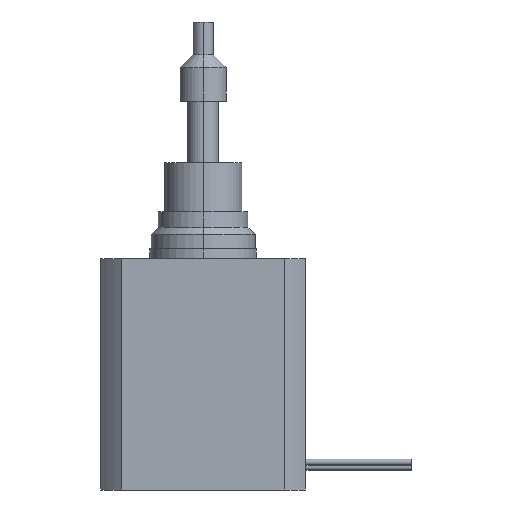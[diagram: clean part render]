
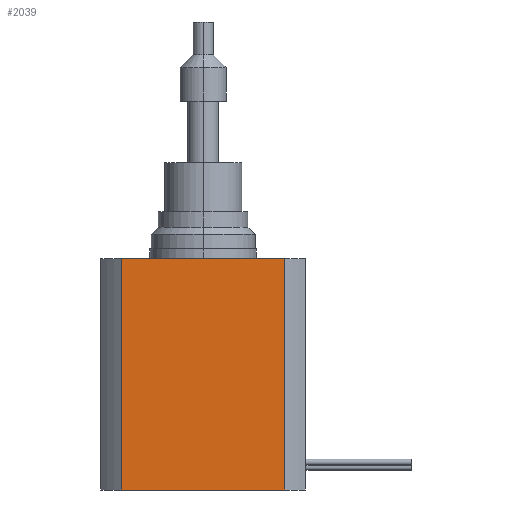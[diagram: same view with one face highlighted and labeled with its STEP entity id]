
A CAD part, left-side view. The second image highlights one B-rep face of the part: STEP entity #2039.
In plain terms, the highlighted planar face has unit normal (-1, 0, 0).
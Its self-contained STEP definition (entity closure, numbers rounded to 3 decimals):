
#75 = CARTESIAN_POINT ( 'NONE',  ( -21.1, 16.838, -47.75 ) ) ;
#152 = EDGE_CURVE ( 'NONE', #2584, #434, #2000, .T. ) ;
#195 = VECTOR ( 'NONE', #1322, 1000. ) ;
#240 = CARTESIAN_POINT ( 'NONE',  ( -21.1, -16.838, -47.75 ) ) ;
#256 = CARTESIAN_POINT ( 'NONE',  ( -21.1, -16.838, 0. ) ) ;
#270 = EDGE_CURVE ( 'NONE', #2584, #754, #437, .T. ) ;
#421 = CARTESIAN_POINT ( 'NONE',  ( -21.1, 16.838, 0. ) ) ;
#434 = VERTEX_POINT ( 'NONE', #421 ) ;
#437 = LINE ( 'NONE', #1370, #195 ) ;
#582 = EDGE_CURVE ( 'NONE', #434, #1094, #1274, .T. ) ;
#597 = VECTOR ( 'NONE', #1249, 1000. ) ;
#627 = CARTESIAN_POINT ( 'NONE',  ( -21.1, -16.838, -47.75 ) ) ;
#658 = EDGE_CURVE ( 'NONE', #754, #1094, #2222, .T. ) ;
#737 = FACE_OUTER_BOUND ( 'NONE', #2724, .T. ) ;
#754 = VERTEX_POINT ( 'NONE', #240 ) ;
#977 = CARTESIAN_POINT ( 'NONE',  ( -21.1, 21.1, -47.75 ) ) ;
#1094 = VERTEX_POINT ( 'NONE', #256 ) ;
#1192 = PLANE ( 'NONE',  #1537 ) ;
#1248 = ORIENTED_EDGE ( 'NONE', *, *, #658, .T. ) ;
#1249 = DIRECTION ( 'NONE',  ( 0., -1., 0. ) ) ;
#1274 = LINE ( 'NONE', #2882, #597 ) ;
#1322 = DIRECTION ( 'NONE',  ( 0., -1., 0. ) ) ;
#1358 = ORIENTED_EDGE ( 'NONE', *, *, #152, .F. ) ;
#1370 = CARTESIAN_POINT ( 'NONE',  ( -21.1, 21.1, -47.75 ) ) ;
#1420 = VECTOR ( 'NONE', #1556, 1000. ) ;
#1424 = DIRECTION ( 'NONE',  ( 0., -1., 0. ) ) ;
#1537 = AXIS2_PLACEMENT_3D ( 'NONE', #977, #2803, #1424 ) ;
#1556 = DIRECTION ( 'NONE',  ( 0., 0., 1. ) ) ;
#2000 = LINE ( 'NONE', #2890, #1420 ) ;
#2039 = ADVANCED_FACE ( 'NONE', ( #737 ), #1192, .T. ) ;
#2115 = ORIENTED_EDGE ( 'NONE', *, *, #270, .T. ) ;
#2191 = DIRECTION ( 'NONE',  ( 0., 0., 1. ) ) ;
#2192 = VECTOR ( 'NONE', #2191, 1000. ) ;
#2222 = LINE ( 'NONE', #627, #2192 ) ;
#2310 = ORIENTED_EDGE ( 'NONE', *, *, #582, .F. ) ;
#2584 = VERTEX_POINT ( 'NONE', #75 ) ;
#2724 = EDGE_LOOP ( 'NONE', ( #1248, #2310, #1358, #2115 ) ) ;
#2803 = DIRECTION ( 'NONE',  ( -1., 0., 0. ) ) ;
#2882 = CARTESIAN_POINT ( 'NONE',  ( -21.1, 21.1, 0. ) ) ;
#2890 = CARTESIAN_POINT ( 'NONE',  ( -21.1, 16.838, -47.75 ) ) ;
